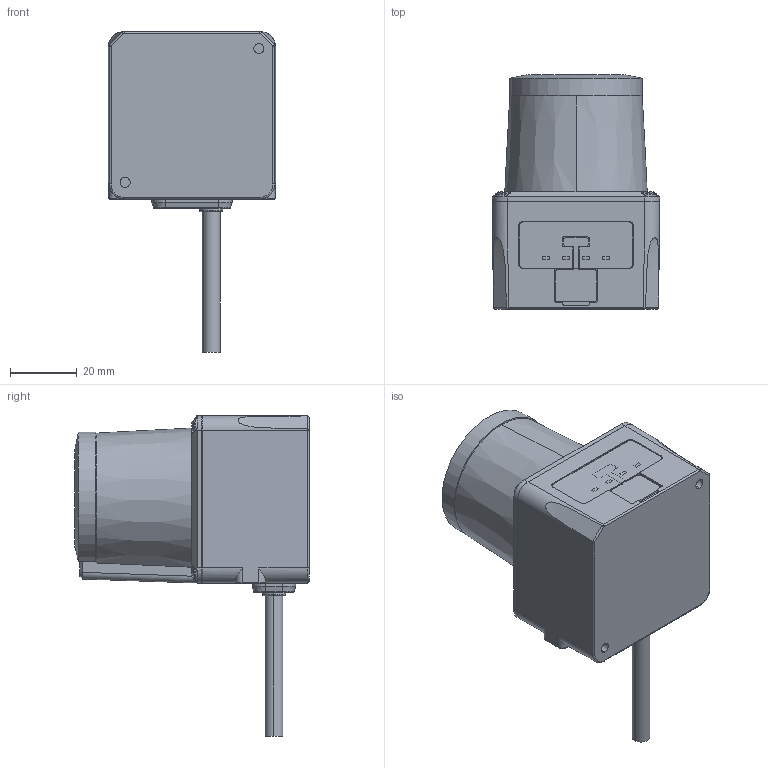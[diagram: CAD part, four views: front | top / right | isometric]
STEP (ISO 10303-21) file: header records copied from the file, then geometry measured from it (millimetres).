
FILE_DESCRIPTION (( 'STEP AP214' ), '1' );
FILE_NAME ('UST-05LN_LA.STEP', '2014-02-27T05:33:44', ( 'hokuyo' ), ( '' ), 'SwSTEP 2.0', 'SolidWorks 2014', '' );
FILE_SCHEMA (( 'AUTOMOTIVE_DESIGN' ));
Length unit declared in the file: millimetre
Products named in the file (1): UST-05LN_LA
Bounding box: 50 x 70 x 95.8 mm (x, y, z)
Volume: 134685.4 mm3; surface area: 18178.4 mm2
Topology: 1 solids, 1 shells, 416 faces, 1105 edges, 716 vertices
Faces by surface type: plane 205, cylinder 94, bspline 76, cone 16, sphere 13, torus 12
Entity records: 17492 total; most frequent: CARTESIAN_POINT 4203, ORIENTED_EDGE 2210, DIRECTION 1947, EDGE_CURVE 1105, VERTEX_POINT 716, AXIS2_PLACEMENT_3D 676, LINE 595, VECTOR 595
